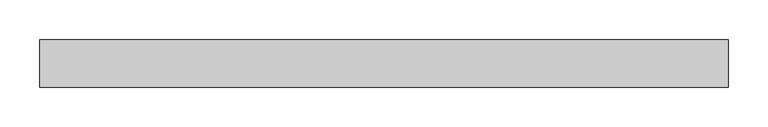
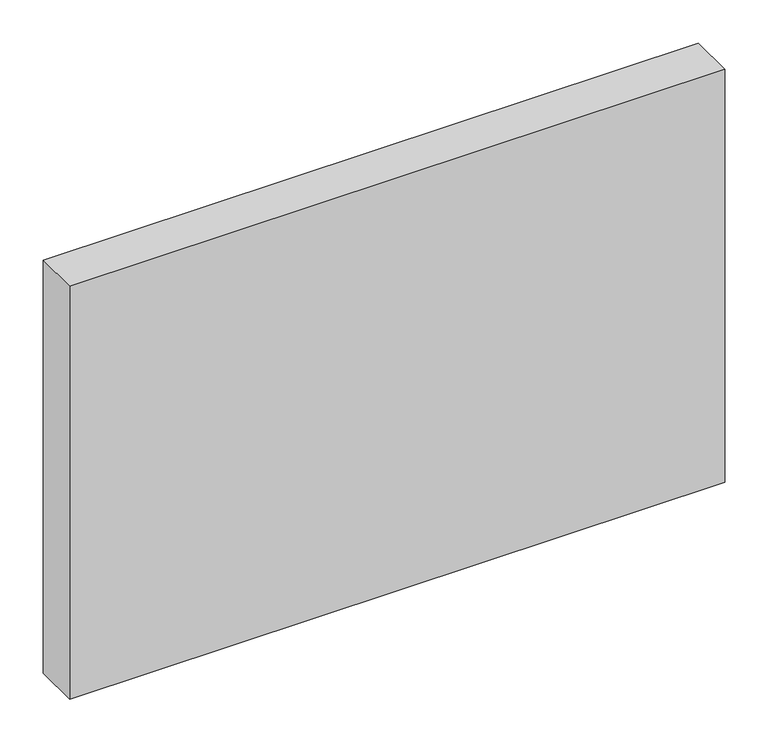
"""IFC4 building model written with IfcOpenShell, lengths in millimetres: plate geometry, Системная панель : Алюкобонд серый."""

import ifcopenshell
import ifcopenshell.guid

model = None  # the IFC model being written
_history = None  # IfcOwnerHistory: only IFC2X3 demands one
_inside = {}  # id of a spatial element -> (the spatial element, [elements in it])
_under = {}  # id of a project, library or spatial element -> (it, [spatial elements below it])
_declared = {}  # id of a project -> (the project, [libraries it declares])
_typed = {}  # id of a type object -> (the type object, [elements of that type])
_made_of = {}  # id of a material, layer set ... -> (it, [elements and type objects made of it])


def new_model(schema):
    """Start an empty IFC model of exactly this schema.

    Asked for "IFC4X3", IfcOpenShell would pick the latest addendum, in which some entities
    have other attributes; the version numbers below select the first issue.
    IFC2X3 requires an IfcOwnerHistory on every rooted entity: one is made here for all.
    """
    global model, _history
    if schema == "IFC4X3":
        model = ifcopenshell.file(schema_version=(4, 3, 0, 0))
    else:
        model = ifcopenshell.file(schema=schema)
    _inside.clear()
    _under.clear()
    _declared.clear()
    _typed.clear()
    _made_of.clear()
    _history = None
    if model.schema == "IFC2X3":
        org = make("IfcOrganization", Name="unknown")
        user = make(
            "IfcPersonAndOrganization",
            ThePerson=make("IfcPerson", FamilyName="unknown"),
            TheOrganization=org,
        )
        app = make(
            "IfcApplication",
            ApplicationDeveloper=org,
            Version="unknown",
            ApplicationFullName="unknown",
            ApplicationIdentifier="unknown",
        )
        _history = make(
            "IfcOwnerHistory",
            OwningUser=user,
            OwningApplication=app,
            ChangeAction="ADDED",
            CreationDate=0,
        )
    return model


def make(cls, **values):
    """One entity of the class cls with the attributes given. An attribute that is None is left unset."""
    return model.create_entity(
        cls, **{name: value for name, value in values.items() if value is not None}
    )


def rooted(cls, **values):
    """An entity with a GlobalId (a new one), such as an element, a storey or a relation."""
    return make(cls, GlobalId=ifcopenshell.guid.new(), OwnerHistory=_history, **values)


def si_unit(unit_type, name, prefix=None):
    """IfcSIUnit, for example si_unit("LENGTHUNIT", "METRE", prefix="MILLI")."""
    return make("IfcSIUnit", UnitType=unit_type, Prefix=prefix, Name=name)


def assignment(units):
    """IfcUnitAssignment: the units of a project."""
    return None if units is None else make("IfcUnitAssignment", Units=units)


def point(xyz):
    """IfcCartesianPoint."""
    return None if xyz is None else make("IfcCartesianPoint", Coordinates=xyz)


def direction(xyz):
    """IfcDirection."""
    return None if xyz is None else make("IfcDirection", DirectionRatios=xyz)


def frame(location, z_axis=None, x_axis=None):
    """IfcAxis2Placement3D, a coordinate frame: its origin and axes. An axis left out is left unset."""
    return make(
        "IfcAxis2Placement3D",
        Location=point(location),
        Axis=direction(z_axis),
        RefDirection=direction(x_axis),
    )


def origin():
    """The frame at (0, 0, 0) with its axes left unset."""
    return frame((0.0, 0.0, 0.0))


def origin_with_axes():
    """The frame at (0, 0, 0) with the z axis (0, 0, 1) and the x axis (1, 0, 0) written out."""
    return frame((0.0, 0.0, 0.0), z_axis=(0.0, 0.0, 1.0), x_axis=(1.0, 0.0, 0.0))


def place(relative_to, where):
    """IfcLocalPlacement: puts the frame where relative to a parent placement (None: the world)."""
    return make(
        "IfcLocalPlacement", PlacementRelTo=relative_to, RelativePlacement=where
    )


def context(
    kind, dimensions, precision=None, world=None, true_north=None, identifier=None
):
    """IfcGeometricRepresentationContext, for example the 3D "Model" context."""
    return make(
        "IfcGeometricRepresentationContext",
        ContextIdentifier=identifier,
        ContextType=kind,
        CoordinateSpaceDimension=dimensions,
        Precision=precision,
        WorldCoordinateSystem=world,
        TrueNorth=true_north,
    )


def project(units=None, contexts=None):
    """IfcProject with its units and contexts."""
    return rooted(
        "IfcProject",
        Name="project",
        RepresentationContexts=contexts,
        UnitsInContext=assignment(units),
    )


def spatial(cls, under=None, at=None, **own):
    """A site, building, storey or space (cls), placed at a placement, below another one or the project."""
    s = rooted(cls, ObjectPlacement=at, **own)
    if under is not None:
        _under.setdefault(under.id(), (under, []))[1].append(s)
    return s


def polyline(points):
    """IfcPolyline through the points."""
    return make("IfcPolyline", Points=[point(p) for p in points])


def outline(outer, holes=None, kind="AREA"):
    """IfcArbitraryClosedProfileDef: a profile drawn as a closed curve; with holes, ...WithVoids."""
    if holes is None:
        return make("IfcArbitraryClosedProfileDef", ProfileType=kind, OuterCurve=outer)
    return make(
        "IfcArbitraryProfileDefWithVoids",
        ProfileType=kind,
        OuterCurve=outer,
        InnerCurves=holes,
    )


def extrude(swept, where, along, depth):
    """IfcExtrudedAreaSolid: the profile swept, set in the frame where, extruded along a direction by depth."""
    return make(
        "IfcExtrudedAreaSolid",
        SweptArea=swept,
        Position=where,
        ExtrudedDirection=direction(along),
        Depth=depth,
    )


def shape(context_of_items, identifier, shape_type, items):
    """IfcShapeRepresentation: the items that make up one representation, for example the "Body"."""
    return make(
        "IfcShapeRepresentation",
        ContextOfItems=context_of_items,
        RepresentationIdentifier=identifier,
        RepresentationType=shape_type,
        Items=items,
    )


def source(mapping_origin, context_of_items, identifier, shape_type, items):
    """IfcRepresentationMap: a shape defined once, which mapped items show again and again."""
    return make(
        "IfcRepresentationMap",
        MappingOrigin=mapping_origin,
        MappedRepresentation=shape(context_of_items, identifier, shape_type, items),
    )


def transform(
    local_origin,
    x_axis=None,
    y_axis=None,
    z_axis=None,
    scale=None,
    scale2=None,
    scale3=None,
    uniform=True,
):
    """IfcCartesianTransformationOperator3D, or its non-uniform kind. x_axis, y_axis, z_axis: its Axis1, 2, 3."""
    if uniform:
        return make(
            "IfcCartesianTransformationOperator3D",
            Axis1=direction(x_axis),
            Axis2=direction(y_axis),
            LocalOrigin=point(local_origin),
            Scale=scale,
            Axis3=direction(z_axis),
        )
    return make(
        "IfcCartesianTransformationOperator3DnonUniform",
        Axis1=direction(x_axis),
        Axis2=direction(y_axis),
        LocalOrigin=point(local_origin),
        Scale=scale,
        Axis3=direction(z_axis),
        Scale2=scale2,
        Scale3=scale3,
    )


def mapped(mapping_source, mapping_target):
    """IfcMappedItem: shows the shape of a source again, moved by a transform."""
    return make(
        "IfcMappedItem", MappingSource=mapping_source, MappingTarget=mapping_target
    )


def made_of(thing, what):
    """Note that an element or type object is made of a material, layer set ...; save() writes the relation."""
    if what is not None:
        _made_of.setdefault(what.id(), (what, []))[1].append(thing)
    return thing


def element(
    cls,
    number,
    at=None,
    inside=None,
    cuts=None,
    type_object=None,
    material=None,
    context=None,
    identifier="Body",
    shape_type=None,
    held_by="IfcProductDefinitionShape",
    body=None,
    shapes=None,
    **own,
):
    """One element of the class cls, such as IfcWall. Its Tag is "e" and its number.

    at: its placement. inside: the storey or other place that contains it. cuts: it is an
    opening in that element (IfcRelVoidsElement). A single representation is given by context,
    identifier, shape_type and body (its items); several are given by shapes. held_by: the class
    of the entity that holds the representations. save() writes the other relations.
    """
    e = rooted(cls, Tag="e%d" % number, ObjectPlacement=at, **own)
    if body is not None:
        shapes = [shape(context, identifier, shape_type, body)]
    if shapes is not None:
        e.Representation = make(held_by, Representations=shapes)
    if inside is not None:
        _inside.setdefault(inside.id(), (inside, []))[1].append(e)
    if cuts is not None:
        rooted(
            "IfcRelVoidsElement", RelatingBuildingElement=cuts, RelatedOpeningElement=e
        )
    if type_object is not None:
        _typed.setdefault(type_object.id(), (type_object, []))[1].append(e)
    return made_of(e, material)


def aggregate(whole, parts):
    """IfcRelAggregates: a whole, such as a stair, and the parts it consists of."""
    return rooted("IfcRelAggregates", RelatingObject=whole, RelatedObjects=parts)


def save(model, path):
    """Write the relations noted so far, then the file.

    IfcRelAggregates (storeys below a building ...), IfcRelContainedInSpatialStructure (elements
    in a storey), IfcRelDefinesByType, IfcRelAssociatesMaterial and IfcRelDeclares: one each for
    every whole, place, type object, material and project.
    """
    for whole, parts in _under.values():
        aggregate(whole, parts)
    for where, things in _inside.values():
        rooted(
            "IfcRelContainedInSpatialStructure",
            RelatedElements=things,
            RelatingStructure=where,
        )
    for kind, things in _typed.values():
        rooted("IfcRelDefinesByType", RelatedObjects=things, RelatingType=kind)
    for what, things in _made_of.values():
        rooted("IfcRelAssociatesMaterial", RelatedObjects=things, RelatingMaterial=what)
    for by, libraries in _declared.values():
        rooted("IfcRelDeclares", RelatingContext=by, RelatedDefinitions=libraries)
    model.write(path)


def plate_ddc3ce95(model_context):
    return source(origin(), model_context, "Body", "SweptSolid", [
        extrude(outline(polyline([(435.0, -10.5), (-435.0, -10.5), (-435.0, 49.5), (435.0, 49.5), (435.0, -10.5)])), origin_with_axes(), (0.0, 0.0, 1.0), 580.0),
    ])


if __name__ == "__main__":
    model = new_model("IFC4")
    model_context = context("Model", 3, world=origin())
    ifc_project = project(units=[si_unit("LENGTHUNIT", "METRE", prefix="MILLI")], contexts=[model_context])
    site = spatial("IfcSite", under=ifc_project)
    building = spatial("IfcBuilding", under=site)
    placement = place(None, origin())
    plate_shape = plate_ddc3ce95(model_context)
    element("IfcPlate", 1, ObjectType="Системная панель : Алюкобонд серый", at=placement, inside=building, context=model_context, shape_type="MappedRepresentation", body=[
        mapped(plate_shape, transform((0.0, 0.0, 0.0), x_axis=(1.0, 0.0, 0.0), y_axis=(0.0, 1.0, 0.0), z_axis=(0.0, 0.0, 1.0))),
    ])
    save(model, "model.ifc")
